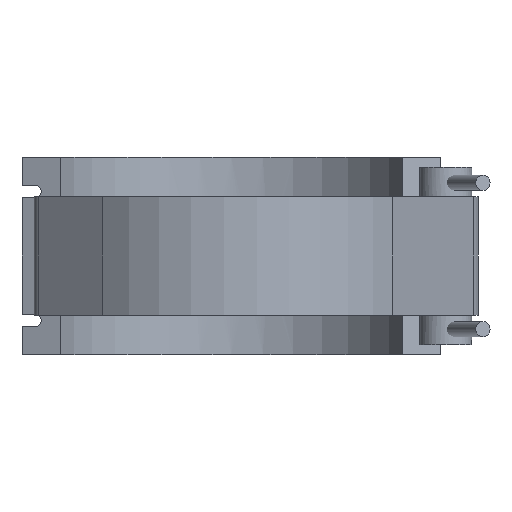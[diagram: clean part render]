
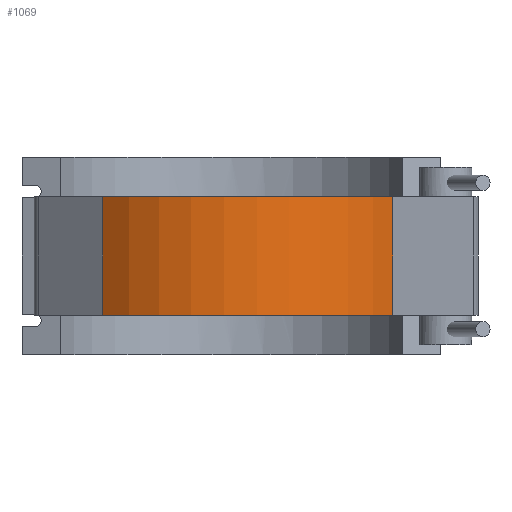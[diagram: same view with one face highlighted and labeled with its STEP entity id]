
A CAD part, front view. The second image highlights one B-rep face of the part: STEP entity #1069.
In plain terms, the highlighted cylindrical face has radius 169.785 mm (diameter 339.57 mm), a partial arc.
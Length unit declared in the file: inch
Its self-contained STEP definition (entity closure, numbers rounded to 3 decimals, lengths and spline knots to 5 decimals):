
#142=FACE_OUTER_BOUND('',#219,.T.);
#219=EDGE_LOOP('',(#940,#941,#942,#943));
#295=LINE('',#2230,#375);
#296=LINE('',#2234,#376);
#375=VECTOR('',#1494,0.3937);
#376=VECTOR('',#1497,0.3937);
#439=CIRCLE('',#1205,6.68445);
#440=CIRCLE('',#1206,6.68445);
#533=VERTEX_POINT('',#2228);
#534=VERTEX_POINT('',#2229);
#535=VERTEX_POINT('',#2231);
#536=VERTEX_POINT('',#2233);
#672=EDGE_CURVE('',#533,#534,#295,.T.);
#673=EDGE_CURVE('',#535,#533,#439,.T.);
#674=EDGE_CURVE('',#536,#535,#296,.T.);
#675=EDGE_CURVE('',#534,#536,#440,.T.);
#940=ORIENTED_EDGE('',*,*,#672,.F.);
#941=ORIENTED_EDGE('',*,*,#673,.F.);
#942=ORIENTED_EDGE('',*,*,#674,.F.);
#943=ORIENTED_EDGE('',*,*,#675,.F.);
#1010=CYLINDRICAL_SURFACE('',#1204,6.68445);
#1069=ADVANCED_FACE('',(#142),#1010,.T.);
#1204=AXIS2_PLACEMENT_3D('',#2227,#1492,#1493);
#1205=AXIS2_PLACEMENT_3D('',#2232,#1495,#1496);
#1206=AXIS2_PLACEMENT_3D('',#2235,#1498,#1499);
#1492=DIRECTION('center_axis',(0.,0.,1.));
#1493=DIRECTION('ref_axis',(-1.,0.,0.));
#1494=DIRECTION('',(0.,0.,-1.));
#1495=DIRECTION('center_axis',(0.,0.,1.));
#1496=DIRECTION('ref_axis',(-1.,0.,0.));
#1497=DIRECTION('',(0.,0.,1.));
#1498=DIRECTION('center_axis',(0.,0.,-1.));
#1499=DIRECTION('ref_axis',(-1.,0.,0.));
#2227=CARTESIAN_POINT('Origin',(0.,0.,0.));
#2228=CARTESIAN_POINT('',(5.65386,-3.56591,2.079));
#2229=CARTESIAN_POINT('',(5.65386,-3.56591,-2.079));
#2230=CARTESIAN_POINT('',(5.65386,-3.56591,0.));
#2231=CARTESIAN_POINT('',(-4.50389,-4.93931,2.079));
#2232=CARTESIAN_POINT('Origin',(0.,0.,2.079));
#2233=CARTESIAN_POINT('',(-4.50389,-4.93931,-2.079));
#2234=CARTESIAN_POINT('',(-4.50389,-4.93931,0.));
#2235=CARTESIAN_POINT('Origin',(0.,0.,-2.079));
